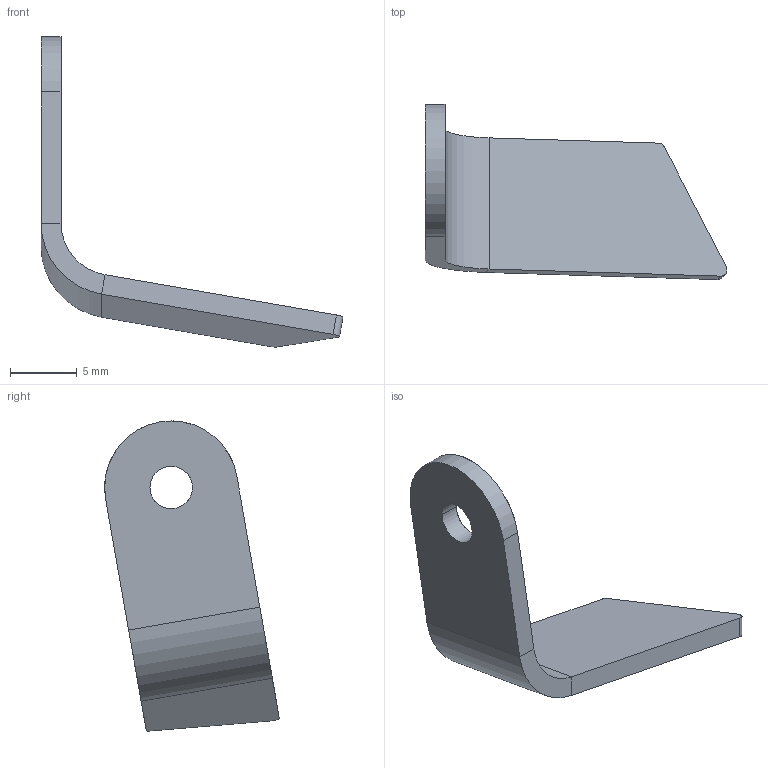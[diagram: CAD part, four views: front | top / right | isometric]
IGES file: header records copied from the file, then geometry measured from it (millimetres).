
Start section: START RECORD GO HERE.
Global section: file name: 20M_EL_04014 (chape tdb gauche).igs; native system: 44HIBM CATIA IGES - CATIA Version 5 Release 19; preprocessor: CATIA Version 5 Release 19 ; author: mik75; organization: LAPTOP-SUH344G9; date: 20200123.183608; units: millimetre
Bounding box: 22.68 x 13.12 x 23.29 mm (x, y, z)
Surface area: 863.8 mm2 (no closed solid volume)
Topology: 0 solids, 0 shells, 18 faces, 82 edges, 83 vertices
Faces by surface type: plane 11, revolution 7
